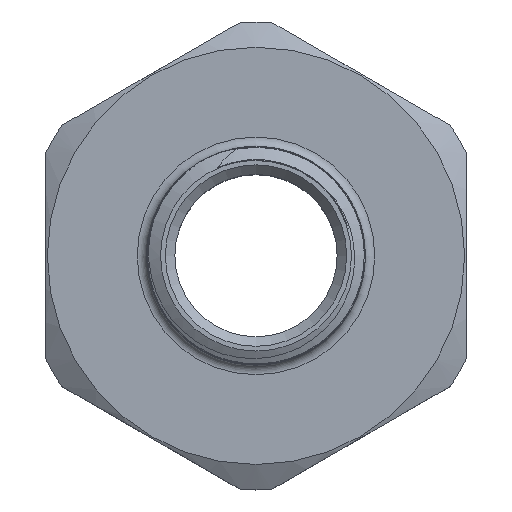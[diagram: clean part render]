
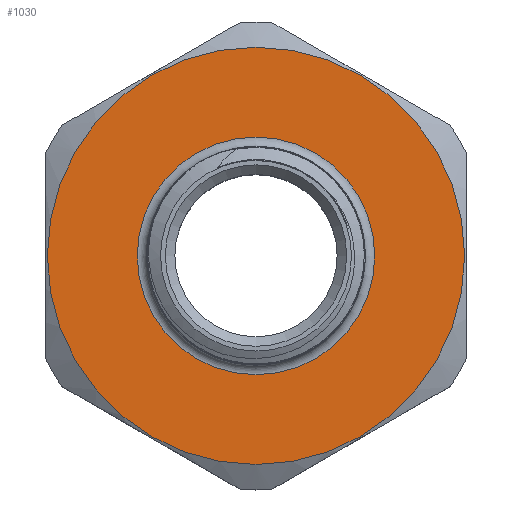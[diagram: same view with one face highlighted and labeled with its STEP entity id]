
A CAD part, top view. The second image highlights one B-rep face of the part: STEP entity #1030.
In plain terms, the highlighted planar face has unit normal (0, 0, 1).
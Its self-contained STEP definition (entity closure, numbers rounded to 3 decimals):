
#15=FACE_BOUND('',#153,.T.);
#23=PLANE('',#1133);
#95=FACE_OUTER_BOUND('',#152,.T.);
#152=EDGE_LOOP('',(#847));
#153=EDGE_LOOP('',(#848,#849));
#187=CIRCLE('',#1096,10.923);
#210=CIRCLE('',#1130,6.22);
#212=CIRCLE('',#1132,6.22);
#416=VERTEX_POINT('',#2500);
#461=VERTEX_POINT('',#5574);
#462=VERTEX_POINT('',#5575);
#539=EDGE_CURVE('',#416,#416,#187,.T.);
#602=EDGE_CURVE('',#461,#462,#210,.T.);
#604=EDGE_CURVE('',#462,#461,#212,.T.);
#847=ORIENTED_EDGE('',*,*,#539,.T.);
#848=ORIENTED_EDGE('',*,*,#602,.F.);
#849=ORIENTED_EDGE('',*,*,#604,.F.);
#1030=ADVANCED_FACE('',(#95,#15),#23,.T.);
#1096=AXIS2_PLACEMENT_3D('',#2501,#1231,#1232);
#1130=AXIS2_PLACEMENT_3D('',#5576,#1310,#1311);
#1132=AXIS2_PLACEMENT_3D('',#5578,#1314,#1315);
#1133=AXIS2_PLACEMENT_3D('',#5579,#1316,#1317);
#1231=DIRECTION('center_axis',(0.,0.,1.));
#1232=DIRECTION('ref_axis',(0.,1.,0.));
#1310=DIRECTION('center_axis',(0.,0.,1.));
#1311=DIRECTION('ref_axis',(0.,1.,0.));
#1314=DIRECTION('center_axis',(0.,0.,1.));
#1315=DIRECTION('ref_axis',(0.,1.,0.));
#1316=DIRECTION('center_axis',(0.,0.,1.));
#1317=DIRECTION('ref_axis',(1.,0.,0.));
#2500=CARTESIAN_POINT('',(0.,-10.923,14.996));
#2501=CARTESIAN_POINT('Origin',(0.,0.,14.996));
#5574=CARTESIAN_POINT('',(0.,-6.22,14.996));
#5575=CARTESIAN_POINT('',(-6.22,0.,14.996));
#5576=CARTESIAN_POINT('Origin',(0.,0.,14.996));
#5578=CARTESIAN_POINT('Origin',(0.,0.,14.996));
#5579=CARTESIAN_POINT('Origin',(0.,-5.72,14.996));
